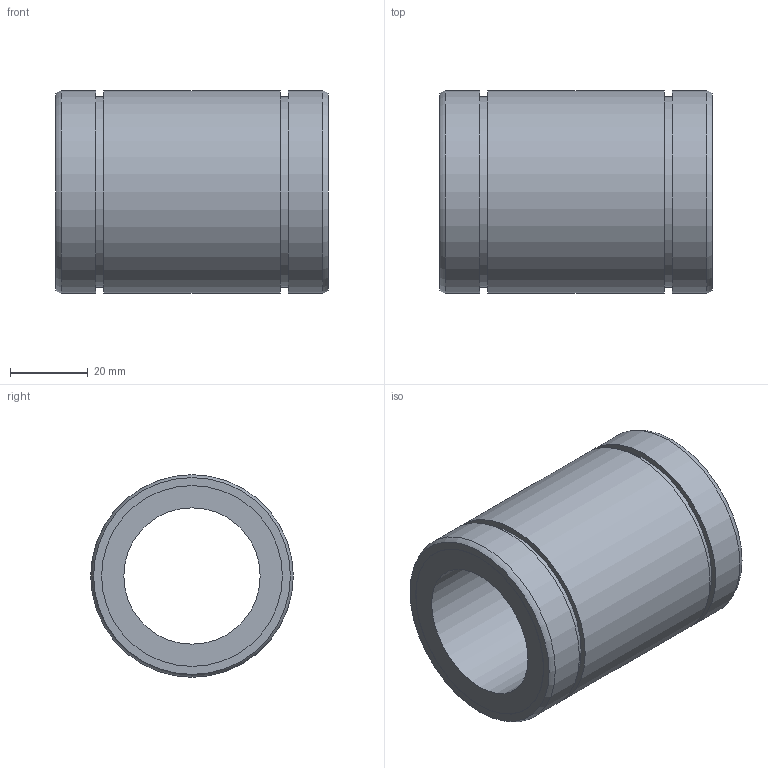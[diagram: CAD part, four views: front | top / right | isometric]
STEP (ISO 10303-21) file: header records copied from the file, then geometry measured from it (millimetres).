
FILE_DESCRIPTION((''),'2;1');
FILE_NAME('D:\製品 (図面)\カタログ用3D\リニアベアリング関連\STEP形式\L\L35.stp','2010-06-02T17:33:43',('Tsuchiya'),(''),'Autodesk Inventor 10','Autodesk Inventor 10','');
FILE_SCHEMA(('AUTOMOTIVE_DESIGN { 1 0 10303 214 1 1 1 1 }'));
Length unit declared in the file: millimetre
Products named in the file (1): L35
Bounding box: 70 x 52 x 52 mm (x, y, z)
Volume: 80015.5 mm3; surface area: 22188.4 mm2
Topology: 1 solids, 1 shells, 18 faces, 28 edges, 18 vertices
Faces by surface type: cylinder 8, plane 8, torus 2
Full cylindrical faces by diameter (mm): 35 x1, 46.4 x2, 49 x2, 52 x3
Entity records: 391 total; most frequent: DIRECTION 74, CARTESIAN_POINT 55, AXIS2_PLACEMENT_3D 37, ORIENTED_EDGE 36, EDGE_LOOP 36, VERTEX_POINT 18, CIRCLE 18, EDGE_CURVE 18
